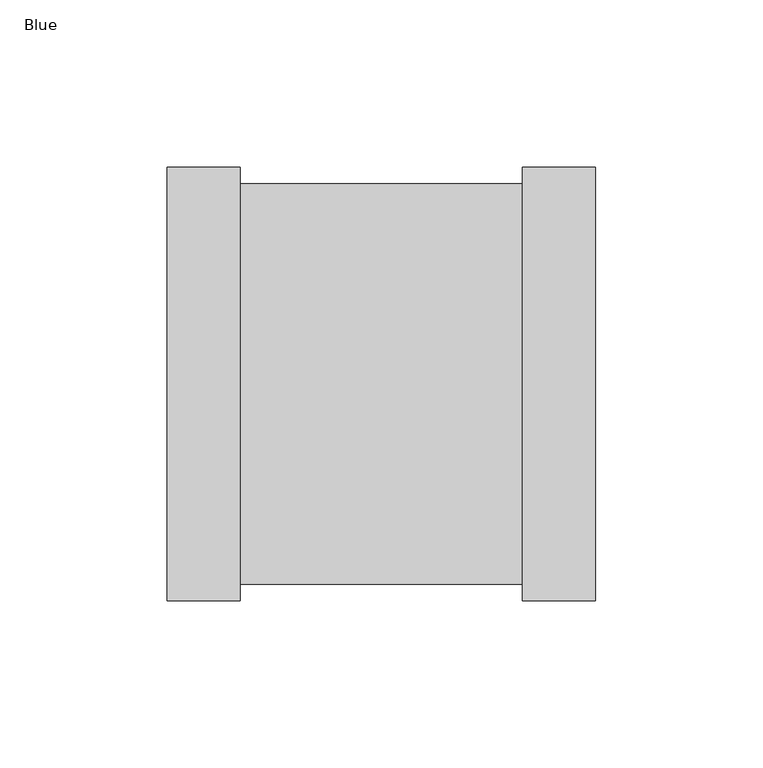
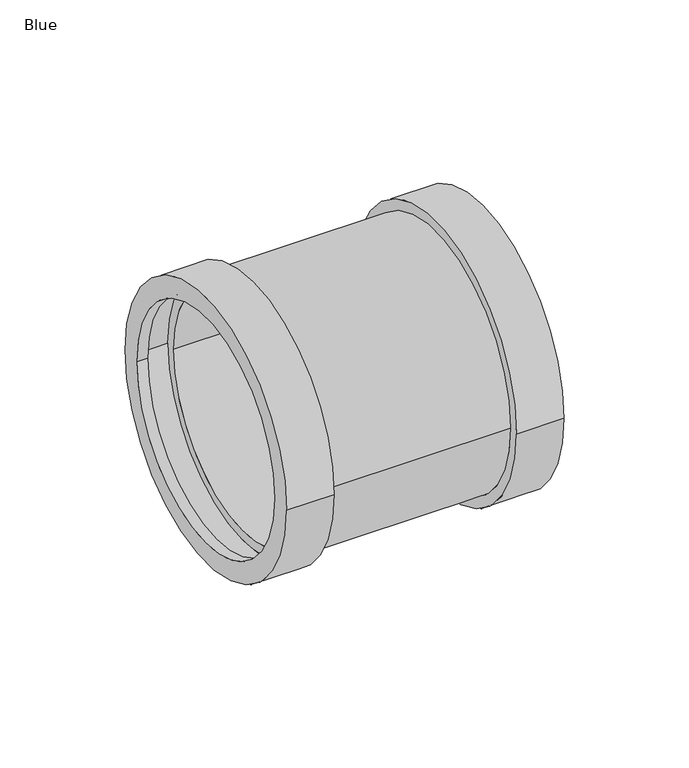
"""IFC4 building model written with IfcOpenShell, lengths in millimetres: pipe fitting geometry, AWADUKT PP Union USM : Blue."""

from ifc_helpers import new_model, si_unit, frame, origin, place, context, project, spatial, polyline, circle_curve, source, transform, mapped, element, save
from ifc_brep_helpers import plane_surface, cylinder_surface, revolved_surface, advanced_brep


def blue_01f449b1(model_context):
    return source(origin(), model_context, "Body", "AdvancedBrep", [
        advanced_brep(
        [(-47.025, 55.0, 0.0), (-47.025, -55.0, 0.0), (47.025, -55.0, 0.0), (47.025, 55.0, 0.0), (-59.15, 59.85, 0.0), (-59.15, -59.85, 0.0), (-47.025, -59.85, 0.0), (-47.025, 59.85, 0.0), (-64.0, 55.0, 0.0), (-64.0, -55.0, 0.0), (-59.15, -55.0, 0.0), (-59.15, 55.0, 0.0), (-42.175, 64.7, 0.0), (-42.175, -64.7, 0.0), (-64.0, -64.7, 0.0), (-64.0, 64.7, 0.0), (42.175, 59.85, 0.0), (42.175, -59.85, 0.0), (-42.175, -59.85, 0.0), (-42.175, 59.85, 0.0), (64.0, 64.7, 0.0), (64.0, -64.7, 0.0), (42.175, -64.7, 0.0), (42.175, 64.7, 0.0), (59.15, 55.0, 0.0), (59.15, -55.0, 0.0), (64.0, -55.0, 0.0), (64.0, 55.0, 0.0), (47.025, 59.85, 0.0), (47.025, -59.85, 0.0), (59.15, -59.85, 0.0), (59.15, 59.85, 0.0)],
        [
            (0, 1, circle_curve(frame((-47.025, 0.0, 0.0), z_axis=(-1.0, 0.0, 0.0), x_axis=(0.0, -1.0, 0.0)), 55.0)),
            (1, 2),
            (2, 3, circle_curve(frame((47.025, 0.0, 0.0), z_axis=(1.0, 0.0, 0.0), x_axis=(0.0, -1.0, 0.0)), 55.0)),
            (3, 0),
            (4, 5, circle_curve(frame((-59.15, 0.0, 0.0), z_axis=(-1.0, 0.0, 0.0), x_axis=(0.0, -1.0, 0.0)), 59.85)),
            (5, 6),
            (6, 7, circle_curve(frame((-47.025, 0.0, 0.0), z_axis=(1.0, 0.0, 0.0), x_axis=(0.0, -1.0, 0.0)), 59.85)),
            (7, 4),
            (8, 9, circle_curve(frame((-64.0, 0.0, 0.0), z_axis=(-1.0, 0.0, 0.0), x_axis=(0.0, -1.0, 0.0)), 55.0)),
            (9, 10),
            (10, 11, circle_curve(frame((-59.15, 0.0, 0.0), z_axis=(1.0, 0.0, 0.0), x_axis=(0.0, -1.0, 0.0)), 55.0)),
            (11, 8),
            (12, 13, circle_curve(frame((-42.175, 0.0, 0.0), z_axis=(-1.0, 0.0, 0.0), x_axis=(0.0, -1.0, 0.0)), 64.7)),
            (13, 14),
            (14, 15, circle_curve(frame((-64.0, 0.0, 0.0), z_axis=(1.0, 0.0, 0.0), x_axis=(0.0, -1.0, 0.0)), 64.7)),
            (15, 12),
            (16, 17, circle_curve(frame((42.175, 0.0, 0.0), z_axis=(-1.0, 0.0, 0.0), x_axis=(0.0, -1.0, 0.0)), 59.85)),
            (17, 18),
            (18, 19, circle_curve(frame((-42.175, 0.0, 0.0), z_axis=(1.0, 0.0, 0.0), x_axis=(0.0, -1.0, 0.0)), 59.85)),
            (19, 16),
            (20, 21, circle_curve(frame((64.0, 0.0, 0.0), z_axis=(-1.0, 0.0, 0.0), x_axis=(0.0, -1.0, 0.0)), 64.7)),
            (21, 22),
            (22, 23, circle_curve(frame((42.175, 0.0, 0.0), z_axis=(1.0, 0.0, 0.0), x_axis=(0.0, -1.0, 0.0)), 64.7)),
            (23, 20),
            (24, 25, circle_curve(frame((59.15, 0.0, 0.0), z_axis=(-1.0, 0.0, 0.0), x_axis=(0.0, -1.0, 0.0)), 55.0)),
            (25, 26),
            (26, 27, circle_curve(frame((64.0, 0.0, 0.0), z_axis=(1.0, 0.0, 0.0), x_axis=(0.0, -1.0, 0.0)), 55.0)),
            (27, 24),
            (28, 29, circle_curve(frame((47.025, 0.0, 0.0), z_axis=(-1.0, 0.0, 0.0), x_axis=(0.0, -1.0, 0.0)), 59.85)),
            (29, 30),
            (30, 31, circle_curve(frame((59.15, 0.0, 0.0), z_axis=(1.0, 0.0, 0.0), x_axis=(0.0, -1.0, 0.0)), 59.85)),
            (31, 28),
            (1, 0, circle_curve(frame((-47.025, 0.0, 0.0), z_axis=(-1.0, 0.0, 0.0), x_axis=(0.0, 1.0, 0.0)), 55.0)),
            (3, 2, circle_curve(frame((47.025, 0.0, 0.0), z_axis=(1.0, 0.0, 0.0), x_axis=(0.0, 1.0, 0.0)), 55.0)),
            (6, 7, circle_curve(frame((-47.025, 0.0, 0.0), z_axis=(-1.0, 0.0, 0.0), x_axis=(0.0, 1.0, 0.0)), 59.85)),
            (5, 4, circle_curve(frame((-59.15, 0.0, 0.0), z_axis=(-1.0, 0.0, 0.0), x_axis=(0.0, 1.0, 0.0)), 59.85)),
            (10, 11, circle_curve(frame((-59.15, 0.0, 0.0), z_axis=(-1.0, 0.0, 0.0), x_axis=(0.0, 1.0, 0.0)), 55.0)),
            (9, 8, circle_curve(frame((-64.0, 0.0, 0.0), z_axis=(-1.0, 0.0, 0.0), x_axis=(0.0, 1.0, 0.0)), 55.0)),
            (14, 15, circle_curve(frame((-64.0, 0.0, 0.0), z_axis=(-1.0, 0.0, 0.0), x_axis=(0.0, 1.0, 0.0)), 64.7)),
            (13, 12, circle_curve(frame((-42.175, 0.0, 0.0), z_axis=(-1.0, 0.0, 0.0), x_axis=(0.0, 1.0, 0.0)), 64.7)),
            (18, 19, circle_curve(frame((-42.175, 0.0, 0.0), z_axis=(-1.0, 0.0, 0.0), x_axis=(0.0, 1.0, 0.0)), 59.85)),
            (17, 16, circle_curve(frame((42.175, 0.0, 0.0), z_axis=(-1.0, 0.0, 0.0), x_axis=(0.0, 1.0, 0.0)), 59.85)),
            (22, 23, circle_curve(frame((42.175, 0.0, 0.0), z_axis=(-1.0, 0.0, 0.0), x_axis=(0.0, 1.0, 0.0)), 64.7)),
            (21, 20, circle_curve(frame((64.0, 0.0, 0.0), z_axis=(-1.0, 0.0, 0.0), x_axis=(0.0, 1.0, 0.0)), 64.7)),
            (26, 27, circle_curve(frame((64.0, 0.0, 0.0), z_axis=(-1.0, 0.0, 0.0), x_axis=(0.0, 1.0, 0.0)), 55.0)),
            (25, 24, circle_curve(frame((59.15, 0.0, 0.0), z_axis=(-1.0, 0.0, 0.0), x_axis=(0.0, 1.0, 0.0)), 55.0)),
            (30, 31, circle_curve(frame((59.15, 0.0, 0.0), z_axis=(-1.0, 0.0, 0.0), x_axis=(0.0, 1.0, 0.0)), 59.85)),
            (29, 28, circle_curve(frame((47.025, 0.0, 0.0), z_axis=(-1.0, 0.0, 0.0), x_axis=(0.0, 1.0, 0.0)), 59.85)),
        ],
        [
            revolved_surface(polyline([(47.025, -55.0, 0.0), (-47.025, -55.0, 0.0)]), (0.0, 0.0, 0.0), (1.0, 0.0, 0.0)),
            revolved_surface(polyline([(-47.025, -59.85, 0.0), (-59.15, -59.85, 0.0)]), (0.0, 0.0, 0.0), (1.0, 0.0, 0.0)),
            revolved_surface(polyline([(-59.15, -55.0, 0.0), (-64.0, -55.0, 0.0)]), (0.0, 0.0, 0.0), (1.0, 0.0, 0.0)),
            cylinder_surface(frame((0.0, 0.0, 0.0), z_axis=(1.0, 0.0, 0.0), x_axis=(0.0, -1.0, 0.0)), 64.7),
            cylinder_surface(frame((0.0, 0.0, 0.0), z_axis=(1.0, 0.0, 0.0), x_axis=(0.0, -1.0, 0.0)), 59.85),
            revolved_surface(polyline([(64.0, -55.0, 0.0), (59.15, -55.0, 0.0)]), (0.0, 0.0, 0.0), (1.0, 0.0, 0.0)),
            revolved_surface(polyline([(59.15, -59.85, 0.0), (47.025, -59.85, 0.0)]), (0.0, 0.0, 0.0), (1.0, 0.0, 0.0)),
            revolved_surface(polyline([(47.025, 55.0, 0.0), (-47.025, 55.0, 0.0)]), (0.0, 0.0, 0.0), (1.0, 0.0, 0.0)),
            plane_surface(frame((-47.025, 0.0, 0.0), z_axis=(-1.0, 0.0, 0.0), x_axis=(0.0, 1.0, 0.0))),
            revolved_surface(polyline([(-47.025, 59.85, 0.0), (-59.15, 59.85, 0.0)]), (0.0, 0.0, 0.0), (1.0, 0.0, 0.0)),
            plane_surface(frame((-59.15, 0.0, 0.0), z_axis=(1.0, 0.0, 0.0), x_axis=(0.0, 1.0, 0.0))),
            revolved_surface(polyline([(-59.15, 55.0, 0.0), (-64.0, 55.0, 0.0)]), (0.0, 0.0, 0.0), (1.0, 0.0, 0.0)),
            plane_surface(frame((-64.0, 0.0, 0.0), z_axis=(-1.0, 0.0, 0.0), x_axis=(0.0, 1.0, 0.0))),
            cylinder_surface(frame((0.0, 0.0, 0.0), z_axis=(1.0, 0.0, 0.0), x_axis=(0.0, 1.0, 0.0)), 64.7),
            plane_surface(frame((-42.175, 0.0, 0.0), z_axis=(1.0, 0.0, 0.0), x_axis=(0.0, 1.0, 0.0))),
            cylinder_surface(frame((0.0, 0.0, 0.0), z_axis=(1.0, 0.0, 0.0), x_axis=(0.0, 1.0, 0.0)), 59.85),
            plane_surface(frame((42.175, 0.0, 0.0), z_axis=(-1.0, 0.0, 0.0), x_axis=(0.0, 1.0, 0.0))),
            plane_surface(frame((64.0, 0.0, 0.0), z_axis=(1.0, 0.0, 0.0), x_axis=(0.0, 1.0, 0.0))),
            revolved_surface(polyline([(64.0, 55.0, 0.0), (59.15, 55.0, 0.0)]), (0.0, 0.0, 0.0), (1.0, 0.0, 0.0)),
            plane_surface(frame((59.15, 0.0, 0.0), z_axis=(-1.0, 0.0, 0.0), x_axis=(0.0, 1.0, 0.0))),
            revolved_surface(polyline([(59.15, 59.85, 0.0), (47.025, 59.85, 0.0)]), (0.0, 0.0, 0.0), (1.0, 0.0, 0.0)),
            plane_surface(frame((47.025, 0.0, 0.0), z_axis=(1.0, 0.0, 0.0), x_axis=(0.0, 1.0, 0.0))),
        ],
        [
            (0, [[1, 2, 3, 4]]),
            (1, [[5, 6, 7, 8]]),
            (2, [[9, 10, 11, 12]]),
            (3, [[13, 14, 15, 16]]),
            (4, [[17, 18, 19, 20]]),
            (3, [[21, 22, 23, 24]]),
            (5, [[25, 26, 27, 28]]),
            (6, [[29, 30, 31, 32]]),
            (7, [[33, -4, 34, -2]]),
            (8, [[35, -7], [-33, -1]]),
            (9, [[36, -8, -35, -6]]),
            (10, [[-36, -5], [37, -11]]),
            (11, [[38, -12, -37, -10]]),
            (12, [[39, -15], [-38, -9]]),
            (13, [[40, -16, -39, -14]]),
            (14, [[-40, -13], [41, -19]]),
            (15, [[42, -20, -41, -18]]),
            (16, [[43, -23], [-42, -17]]),
            (13, [[44, -24, -43, -22]]),
            (17, [[-44, -21], [45, -27]]),
            (18, [[46, -28, -45, -26]]),
            (19, [[47, -31], [-46, -25]]),
            (20, [[48, -32, -47, -30]]),
            (21, [[-48, -29], [-34, -3]]),
        ],
    ),
    ])


if __name__ == "__main__":
    model = new_model("IFC4")
    model_context = context("Model", 3, world=origin())
    ifc_project = project(units=[si_unit("LENGTHUNIT", "METRE", prefix="MILLI")], contexts=[model_context])
    site = spatial("IfcSite", under=ifc_project)
    building = spatial("IfcBuilding", under=site)
    placement = place(None, origin())
    blue_shape = blue_01f449b1(model_context)
    element("IfcPipeFitting", 1, ObjectType="AWADUKT PP Union USM : Blue", at=placement, inside=building, context=model_context, shape_type="MappedRepresentation", body=[
        mapped(blue_shape, transform((0.0, 0.0, 0.0), x_axis=(1.0, 0.0, 0.0), y_axis=(0.0, 1.0, 0.0), z_axis=(0.0, 0.0, 1.0))),
    ])
    save(model, "model.ifc")
